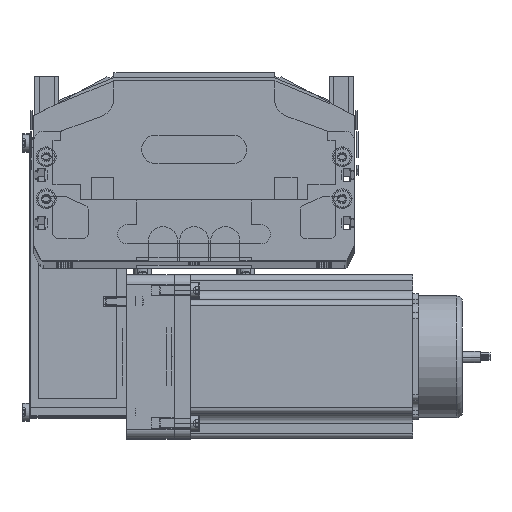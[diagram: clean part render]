
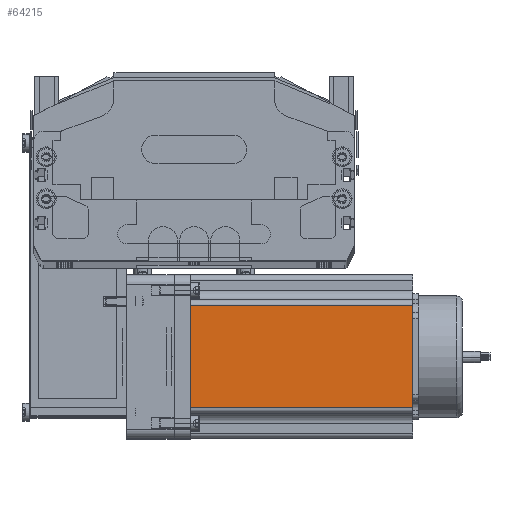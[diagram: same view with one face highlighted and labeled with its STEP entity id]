
A CAD part, top view. The second image highlights one B-rep face of the part: STEP entity #64215.
In plain terms, the highlighted planar face has unit normal (0, 0, 1) as drawn and (0, -1, 0) by its records, which use the part's own axes.
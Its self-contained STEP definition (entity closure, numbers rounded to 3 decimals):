
#44941 = CARTESIAN_POINT ( 'NONE',  ( 69.74, 0., 0. ) ) ;
#45004 = DIRECTION ( 'NONE',  ( 1., 0., 0. ) ) ;
#45006 = VECTOR ( 'NONE', #45004, 1000. ) ;
#45022 = CARTESIAN_POINT ( 'NONE',  ( 69.74, 0., 116.5 ) ) ;
#45029 = CARTESIAN_POINT ( 'NONE',  ( 0., 0., 116.5 ) ) ;
#45031 = LINE ( 'NONE', #45029, #45006 ) ;
#45032 = DIRECTION ( 'NONE',  ( 0., 0., -1. ) ) ;
#45034 = VECTOR ( 'NONE', #45032, 1000. ) ;
#45036 = CARTESIAN_POINT ( 'NONE',  ( 16.16, 0., 116.5 ) ) ;
#45047 = LINE ( 'NONE', #45036, #45034 ) ;
#45103 = DIRECTION ( 'NONE',  ( 0., 0., 1. ) ) ;
#45105 = DIRECTION ( 'NONE',  ( 0., 1., 0. ) ) ;
#45106 = CARTESIAN_POINT ( 'NONE',  ( 0., 0., 116.5 ) ) ;
#45108 = AXIS2_PLACEMENT_3D ( 'NONE', #45106, #45105, #45103 ) ;
#45118 = PLANE ( 'NONE',  #45108 ) ;
#45123 = FACE_OUTER_BOUND ( 'NONE', #64302, .T. ) ;
#45134 = CARTESIAN_POINT ( 'NONE',  ( 16.16, 0., 116.5 ) ) ;
#45319 = DIRECTION ( 'NONE',  ( 1., 0., 0. ) ) ;
#45320 = VECTOR ( 'NONE', #45319, 1000. ) ;
#45368 = CARTESIAN_POINT ( 'NONE',  ( 16.16, 0., 0. ) ) ;
#45372 = CARTESIAN_POINT ( 'NONE',  ( 0., 0., 0. ) ) ;
#45374 = LINE ( 'NONE', #45372, #45320 ) ;
#45525 = VECTOR ( 'NONE', #45540, 1000. ) ;
#45536 = LINE ( 'NONE', #45542, #45525 ) ;
#45540 = DIRECTION ( 'NONE',  ( 0., 0., 1. ) ) ;
#45542 = CARTESIAN_POINT ( 'NONE',  ( 69.74, 0., 116.5 ) ) ;
#64162 = ORIENTED_EDGE ( 'NONE', *, *, #64284, .T. ) ;
#64165 = VERTEX_POINT ( 'NONE', #44941 ) ;
#64182 = ORIENTED_EDGE ( 'NONE', *, *, #64189, .F. ) ;
#64183 = EDGE_CURVE ( 'NONE', #64216, #64287, #45047, .T. ) ;
#64189 = EDGE_CURVE ( 'NONE', #64216, #64191, #45031, .T. ) ;
#64191 = VERTEX_POINT ( 'NONE', #45022 ) ;
#64215 = ADVANCED_FACE ( 'NONE', ( #45123 ), #45118, .F. ) ;
#64216 = VERTEX_POINT ( 'NONE', #45134 ) ;
#64284 = EDGE_CURVE ( 'NONE', #64287, #64165, #45374, .T. ) ;
#64285 = ORIENTED_EDGE ( 'NONE', *, *, #64183, .T. ) ;
#64286 = ORIENTED_EDGE ( 'NONE', *, *, #64318, .T. ) ;
#64287 = VERTEX_POINT ( 'NONE', #45368 ) ;
#64302 = EDGE_LOOP ( 'NONE', ( #64162, #64286, #64182, #64285 ) ) ;
#64318 = EDGE_CURVE ( 'NONE', #64165, #64191, #45536, .T. ) ;
